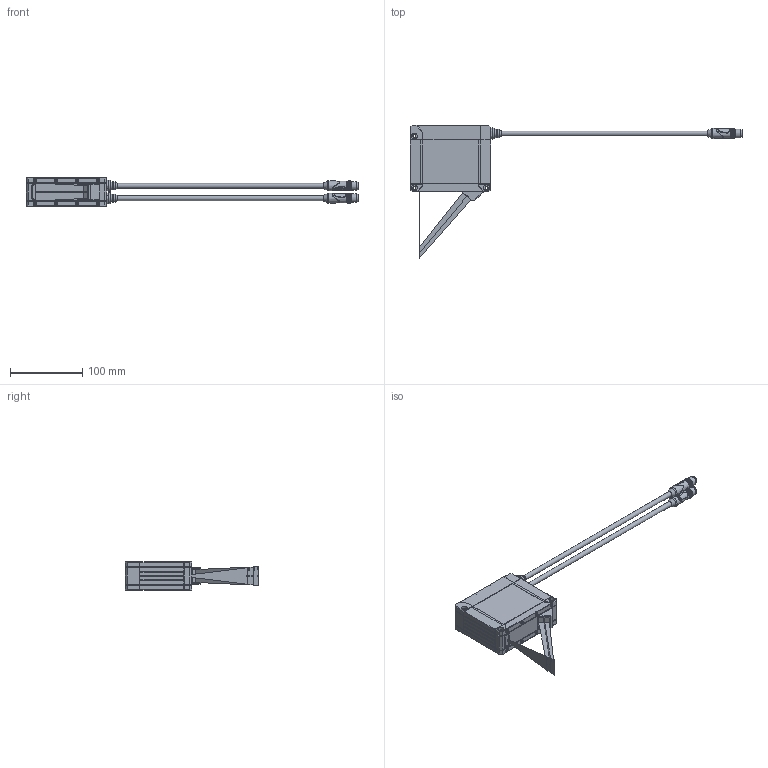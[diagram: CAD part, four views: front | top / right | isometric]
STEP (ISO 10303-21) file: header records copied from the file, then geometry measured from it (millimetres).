
FILE_DESCRIPTION (( 'STEP AP214' ), '1' );
FILE_NAME ('LLT30xx-25-RT.STEP', '2026-07-22T08:16:41', ( '' ), ( '' ), 'SwSTEP 2.0', 'SolidWorks 2024', '' );
FILE_SCHEMA (( 'AUTOMOTIVE_DESIGN' ));
Length unit declared in the file: millimetre
Products named in the file (1): LLT30xx-25-RT
Bounding box: 459.4 x 184.5 x 40 mm (x, y, z)
Volume: 434650.8 mm3; surface area: 74410.1 mm2
Topology: 3 solids, 18 shells, 3916 faces, 8816 edges, 5039 vertices
Faces by surface type: plane 2141, cone 944, cylinder 506, bspline 294, torus 28, sphere 3
Full cylindrical faces by diameter (mm): 0.6 x8, 0.7 x12, 2.4 x3, 2.8 x3, 3 x3, 3.8 x16, 4.2 x3, 4.4 x16, 6.8 x4, 8 x4, 8.35 x2, 8.4 x4, 9.2 x2, 9.4 x2, 9.5 x2, 10.268 x2, 10.5 x2, 10.7 x2, 10.75 x2, 10.8 x2, 11.2 x2, 12 x2, 13 x2, 13.5 x2, 15 x2
Entity records: 163417 total; most frequent: CARTESIAN_POINT 40983, ORIENTED_EDGE 17048, DIRECTION 14818, EDGE_CURVE 8524, AXIS2_PLACEMENT_3D 5576, VERTEX_POINT 4971, EDGE_LOOP 4271, FACE_OUTER_BOUND 4054
